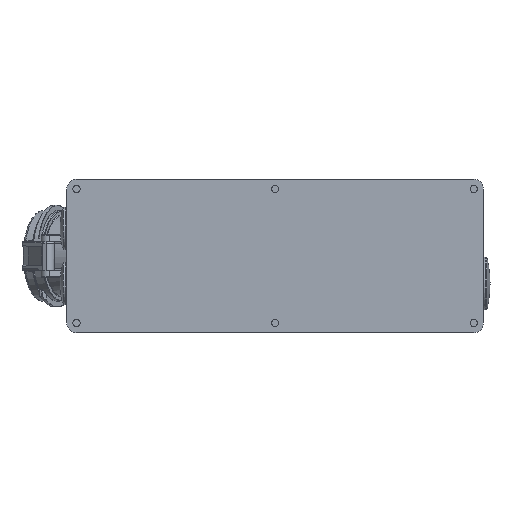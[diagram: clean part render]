
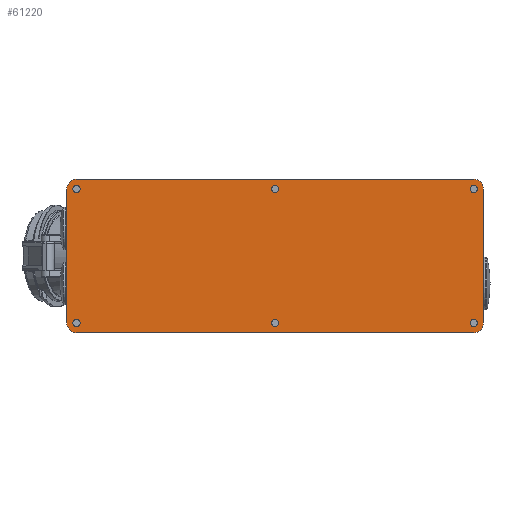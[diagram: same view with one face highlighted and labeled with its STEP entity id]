
A CAD part, front view. The second image highlights one B-rep face of the part: STEP entity #61220.
In plain terms, the highlighted planar face has unit normal (0, -1, 0).
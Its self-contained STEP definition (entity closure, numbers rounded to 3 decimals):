
#19193=CARTESIAN_POINT('',(-173.5,0.,-58.5));
#19194=DIRECTION('',(0.,1.,0.));
#19195=DIRECTION('',(0.,0.,-1.));
#19196=AXIS2_PLACEMENT_3D('',#19193,#19194,#19195);
#19201=DIRECTION('',(0.,0.,1.));
#19202=VECTOR('',#19201,117.);
#19203=CARTESIAN_POINT('',(-182.,0.,-58.5));
#19204=LINE('1728',#19203,#19202);
#19208=CARTESIAN_POINT('',(-173.5,0.,58.5));
#19209=DIRECTION('',(0.,1.,0.));
#19210=DIRECTION('',(-1.,0.,0.));
#19211=AXIS2_PLACEMENT_3D('',#19208,#19209,#19210);
#19216=DIRECTION('',(1.,0.,0.));
#19217=VECTOR('',#19216,347.);
#19218=CARTESIAN_POINT('',(-173.5,0.,67.));
#19219=LINE('1730',#19218,#19217);
#19223=CARTESIAN_POINT('',(173.5,0.,58.5));
#19224=DIRECTION('',(0.,1.,0.));
#19225=DIRECTION('',(0.,0.,1.));
#19226=AXIS2_PLACEMENT_3D('',#19223,#19224,#19225);
#19231=DIRECTION('',(0.,0.,-1.));
#19232=VECTOR('',#19231,117.);
#19233=CARTESIAN_POINT('',(182.,0.,58.5));
#19234=LINE('1732',#19233,#19232);
#19238=CARTESIAN_POINT('',(173.5,0.,-58.5));
#19239=DIRECTION('',(0.,1.,0.));
#19240=DIRECTION('',(1.,0.,0.));
#19241=AXIS2_PLACEMENT_3D('',#19238,#19239,#19240);
#19246=DIRECTION('',(-1.,0.,0.));
#19247=VECTOR('',#19246,347.);
#19248=CARTESIAN_POINT('',(173.5,0.,-67.));
#19249=LINE('1734',#19248,#19247);
#19253=CARTESIAN_POINT('',(0.,0.,-58.5));
#19254=DIRECTION('',(0.,1.,0.));
#19255=DIRECTION('',(0.,0.,1.));
#19256=AXIS2_PLACEMENT_3D('',#19253,#19254,#19255);
#19261=CARTESIAN_POINT('',(0.,0.,-58.5));
#19262=DIRECTION('',(0.,1.,0.));
#19263=DIRECTION('',(0.,0.,-1.));
#19264=AXIS2_PLACEMENT_3D('',#19261,#19262,#19263);
#19269=CARTESIAN_POINT('',(-173.5,0.,-58.5));
#19270=DIRECTION('',(0.,1.,0.));
#19271=DIRECTION('',(0.,0.,1.));
#19272=AXIS2_PLACEMENT_3D('',#19269,#19270,#19271);
#19277=CARTESIAN_POINT('',(-173.5,0.,-58.5));
#19278=DIRECTION('',(0.,1.,0.));
#19279=DIRECTION('',(0.,0.,-1.));
#19280=AXIS2_PLACEMENT_3D('',#19277,#19278,#19279);
#19285=CARTESIAN_POINT('',(173.5,0.,-58.5));
#19286=DIRECTION('',(0.,1.,0.));
#19287=DIRECTION('',(0.,0.,1.));
#19288=AXIS2_PLACEMENT_3D('',#19285,#19286,#19287);
#19293=CARTESIAN_POINT('',(173.5,0.,-58.5));
#19294=DIRECTION('',(0.,1.,0.));
#19295=DIRECTION('',(0.,0.,-1.));
#19296=AXIS2_PLACEMENT_3D('',#19293,#19294,#19295);
#19301=CARTESIAN_POINT('',(0.,0.,58.5));
#19302=DIRECTION('',(0.,-1.,0.));
#19303=DIRECTION('',(0.,0.,-1.));
#19304=AXIS2_PLACEMENT_3D('',#19301,#19302,#19303);
#19309=CARTESIAN_POINT('',(0.,0.,58.5));
#19310=DIRECTION('',(0.,-1.,0.));
#19311=DIRECTION('',(0.,0.,1.));
#19312=AXIS2_PLACEMENT_3D('',#19309,#19310,#19311);
#19317=CARTESIAN_POINT('',(-173.5,0.,58.5));
#19318=DIRECTION('',(0.,-1.,0.));
#19319=DIRECTION('',(0.,0.,-1.));
#19320=AXIS2_PLACEMENT_3D('',#19317,#19318,#19319);
#19325=CARTESIAN_POINT('',(-173.5,0.,58.5));
#19326=DIRECTION('',(0.,-1.,0.));
#19327=DIRECTION('',(0.,0.,1.));
#19328=AXIS2_PLACEMENT_3D('',#19325,#19326,#19327);
#19333=CARTESIAN_POINT('',(173.5,0.,58.5));
#19334=DIRECTION('',(0.,-1.,0.));
#19335=DIRECTION('',(0.,0.,-1.));
#19336=AXIS2_PLACEMENT_3D('',#19333,#19334,#19335);
#19341=CARTESIAN_POINT('',(173.5,0.,58.5));
#19342=DIRECTION('',(0.,-1.,0.));
#19343=DIRECTION('',(0.,0.,1.));
#19344=AXIS2_PLACEMENT_3D('',#19341,#19342,#19343);
#34659=CARTESIAN_POINT('',(-173.5,0.,-67.));
#34660=CARTESIAN_POINT('',(-182.,0.,-58.5));
#34661=VERTEX_POINT('',#34659);
#34662=VERTEX_POINT('',#34660);
#34663=CARTESIAN_POINT('',(-182.,0.,58.5));
#34664=VERTEX_POINT('',#34663);
#34665=CARTESIAN_POINT('',(-173.5,0.,67.));
#34666=VERTEX_POINT('',#34665);
#34667=CARTESIAN_POINT('',(173.5,0.,67.));
#34668=VERTEX_POINT('',#34667);
#34669=CARTESIAN_POINT('',(182.,0.,58.5));
#34670=VERTEX_POINT('',#34669);
#34671=CARTESIAN_POINT('',(182.,0.,-58.5));
#34672=VERTEX_POINT('',#34671);
#34673=CARTESIAN_POINT('',(173.5,0.,-67.));
#34674=VERTEX_POINT('',#34673);
#34675=CARTESIAN_POINT('',(0.,0.,-55.35));
#34676=CARTESIAN_POINT('',(0.,0.,-61.65));
#34677=VERTEX_POINT('',#34675);
#34678=VERTEX_POINT('',#34676);
#34679=CARTESIAN_POINT('',(-173.5,0.,-55.35));
#34680=CARTESIAN_POINT('',(-173.5,0.,-61.65));
#34681=VERTEX_POINT('',#34679);
#34682=VERTEX_POINT('',#34680);
#34683=CARTESIAN_POINT('',(173.5,0.,-55.35));
#34684=CARTESIAN_POINT('',(173.5,0.,-61.65));
#34685=VERTEX_POINT('',#34683);
#34686=VERTEX_POINT('',#34684);
#34687=CARTESIAN_POINT('',(0.,0.,55.35));
#34688=CARTESIAN_POINT('',(0.,0.,61.65));
#34689=VERTEX_POINT('',#34687);
#34690=VERTEX_POINT('',#34688);
#34691=CARTESIAN_POINT('',(-173.5,0.,55.35));
#34692=CARTESIAN_POINT('',(-173.5,0.,61.65));
#34693=VERTEX_POINT('',#34691);
#34694=VERTEX_POINT('',#34692);
#34695=CARTESIAN_POINT('',(173.5,0.,55.35));
#34696=CARTESIAN_POINT('',(173.5,0.,61.65));
#34697=VERTEX_POINT('',#34695);
#34698=VERTEX_POINT('',#34696);
#61169=CARTESIAN_POINT('',(0.,0.,0.));
#61170=DIRECTION('',(0.,1.,0.));
#61171=DIRECTION('',(1.,0.,0.));
#61172=AXIS2_PLACEMENT_3D('',#61169,#61170,#61171);
#61173=PLANE('395',#61172);
#61174=ORIENTED_EDGE('1727',*,*,#61152,.T.);
#61175=ORIENTED_EDGE('1728',*,*,#61115,.T.);
#61176=ORIENTED_EDGE('1729',*,*,#61055,.T.);
#61177=ORIENTED_EDGE('1730',*,*,#61028,.T.);
#61178=ORIENTED_EDGE('1731',*,*,#60989,.T.);
#61179=ORIENTED_EDGE('1732',*,*,#60957,.T.);
#61180=ORIENTED_EDGE('1733',*,*,#60924,.T.);
#61181=ORIENTED_EDGE('1734',*,*,#60898,.T.);
#61182=EDGE_LOOP('395',(#61174,#61175,#61176,#61177,#61178,#61179,#61180,
#61181));
#61183=FACE_OUTER_BOUND('395',#61182,.F.);
#61185=ORIENTED_EDGE('1735',*,*,#61184,.F.);
#61187=ORIENTED_EDGE('1736',*,*,#61186,.F.);
#61188=EDGE_LOOP('395',(#61185,#61187));
#61189=FACE_BOUND('395',#61188,.F.);
#61191=ORIENTED_EDGE('1737',*,*,#61190,.F.);
#61193=ORIENTED_EDGE('1738',*,*,#61192,.F.);
#61194=EDGE_LOOP('395',(#61191,#61193));
#61195=FACE_BOUND('395',#61194,.F.);
#61197=ORIENTED_EDGE('1739',*,*,#61196,.F.);
#61199=ORIENTED_EDGE('1740',*,*,#61198,.F.);
#61200=EDGE_LOOP('395',(#61197,#61199));
#61201=FACE_BOUND('395',#61200,.F.);
#61203=ORIENTED_EDGE('1741',*,*,#61202,.T.);
#61205=ORIENTED_EDGE('1742',*,*,#61204,.T.);
#61206=EDGE_LOOP('395',(#61203,#61205));
#61207=FACE_BOUND('395',#61206,.F.);
#61209=ORIENTED_EDGE('1743',*,*,#61208,.T.);
#61211=ORIENTED_EDGE('1744',*,*,#61210,.T.);
#61212=EDGE_LOOP('395',(#61209,#61211));
#61213=FACE_BOUND('395',#61212,.F.);
#61215=ORIENTED_EDGE('1745',*,*,#61214,.T.);
#61217=ORIENTED_EDGE('1746',*,*,#61216,.T.);
#61218=EDGE_LOOP('395',(#61215,#61217));
#61219=FACE_BOUND('395',#61218,.F.);
#19197=CIRCLE('1727',#19196,8.5);
#19212=CIRCLE('1729',#19211,8.5);
#19227=CIRCLE('1731',#19226,8.5);
#19242=CIRCLE('1733',#19241,8.5);
#19257=CIRCLE('1735',#19256,3.15);
#19265=CIRCLE('1736',#19264,3.15);
#19273=CIRCLE('1737',#19272,3.15);
#19281=CIRCLE('1738',#19280,3.15);
#19289=CIRCLE('1739',#19288,3.15);
#19297=CIRCLE('1740',#19296,3.15);
#19305=CIRCLE('1741',#19304,3.15);
#19313=CIRCLE('1742',#19312,3.15);
#19321=CIRCLE('1743',#19320,3.15);
#19329=CIRCLE('1744',#19328,3.15);
#19337=CIRCLE('1745',#19336,3.15);
#19345=CIRCLE('1746',#19344,3.15);
#60898=EDGE_CURVE('1734',#34674,#34661,#19249,.T.);
#60924=EDGE_CURVE('1733',#34672,#34674,#19242,.T.);
#60957=EDGE_CURVE('1732',#34670,#34672,#19234,.T.);
#60989=EDGE_CURVE('1731',#34668,#34670,#19227,.T.);
#61028=EDGE_CURVE('1730',#34666,#34668,#19219,.T.);
#61055=EDGE_CURVE('1729',#34664,#34666,#19212,.T.);
#61115=EDGE_CURVE('1728',#34662,#34664,#19204,.T.);
#61152=EDGE_CURVE('1727',#34661,#34662,#19197,.T.);
#61184=EDGE_CURVE('1735',#34677,#34678,#19257,.T.);
#61186=EDGE_CURVE('1736',#34678,#34677,#19265,.T.);
#61190=EDGE_CURVE('1737',#34681,#34682,#19273,.T.);
#61192=EDGE_CURVE('1738',#34682,#34681,#19281,.T.);
#61196=EDGE_CURVE('1739',#34685,#34686,#19289,.T.);
#61198=EDGE_CURVE('1740',#34686,#34685,#19297,.T.);
#61202=EDGE_CURVE('1741',#34689,#34690,#19305,.T.);
#61204=EDGE_CURVE('1742',#34690,#34689,#19313,.T.);
#61208=EDGE_CURVE('1743',#34693,#34694,#19321,.T.);
#61210=EDGE_CURVE('1744',#34694,#34693,#19329,.T.);
#61214=EDGE_CURVE('1745',#34697,#34698,#19337,.T.);
#61216=EDGE_CURVE('1746',#34698,#34697,#19345,.T.);
#61220=ADVANCED_FACE('395',(#61183,#61189,#61195,#61201,#61207,#61213,#61219),
#61173,.F.);
